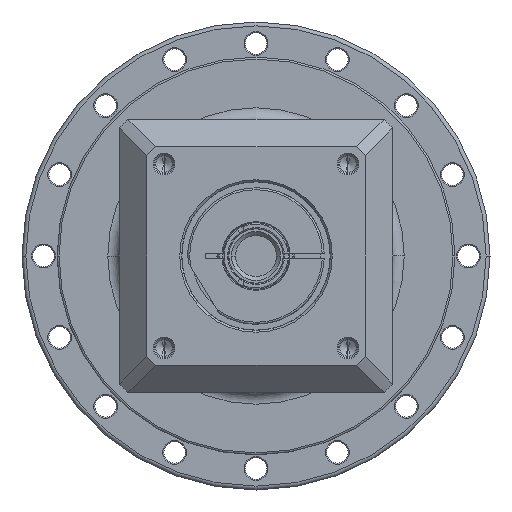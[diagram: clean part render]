
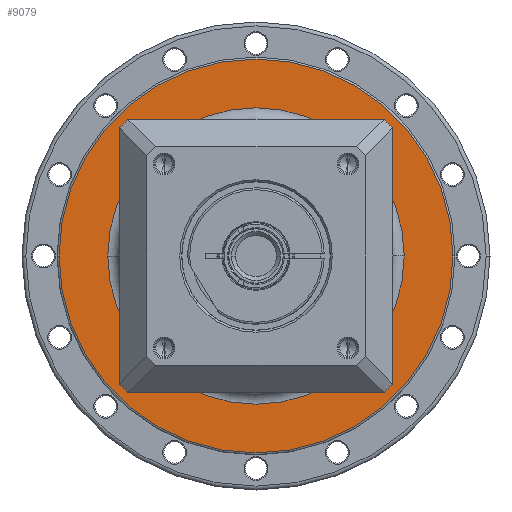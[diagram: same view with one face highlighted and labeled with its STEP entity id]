
A CAD part, left-side view. The second image highlights one B-rep face of the part: STEP entity #9079.
In plain terms, the highlighted planar face has unit normal (-1, 0, 0) as drawn and (1, 0, 0) by its records, which use the part's own axes.
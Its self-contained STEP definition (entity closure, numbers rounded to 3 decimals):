
#8558=CARTESIAN_POINT('',(-11.5,0.,0.));
#8559=DIRECTION('',(-1.,0.,0.));
#8560=DIRECTION('',(0.,-1.,0.));
#8561=AXIS2_PLACEMENT_3D('',#8558,#8559,#8560);
#8563=CARTESIAN_POINT('',(-11.5,0.,0.));
#8564=DIRECTION('',(-1.,0.,0.));
#8565=DIRECTION('',(0.,1.,0.));
#8566=AXIS2_PLACEMENT_3D('',#8563,#8564,#8565);
#8568=CARTESIAN_POINT('',(-11.5,0.,0.));
#8569=DIRECTION('',(-1.,0.,0.));
#8570=DIRECTION('',(0.,-1.,0.));
#8571=AXIS2_PLACEMENT_3D('',#8568,#8569,#8570);
#8573=CARTESIAN_POINT('',(-11.5,0.,0.));
#8574=DIRECTION('',(-1.,0.,0.));
#8575=DIRECTION('',(0.,1.,0.));
#8576=AXIS2_PLACEMENT_3D('',#8573,#8574,#8575);
#8642=CARTESIAN_POINT('',(-11.5,-50.5,0.));
#8643=CARTESIAN_POINT('',(-11.5,50.5,0.));
#8644=VERTEX_POINT('',#8642);
#8645=VERTEX_POINT('',#8643);
#8666=CARTESIAN_POINT('',(-11.5,-38.,0.));
#8667=CARTESIAN_POINT('',(-11.5,38.,0.));
#8668=VERTEX_POINT('',#8666);
#8669=VERTEX_POINT('',#8667);
#9064=CARTESIAN_POINT('',(-11.5,0.,0.));
#9065=DIRECTION('',(1.,0.,0.));
#9066=DIRECTION('',(0.,-1.,0.));
#9067=AXIS2_PLACEMENT_3D('',#9064,#9065,#9066);
#9068=PLANE('',#9067);
#9069=ORIENTED_EDGE('',*,*,#9005,.T.);
#9070=ORIENTED_EDGE('',*,*,#9020,.T.);
#9071=EDGE_LOOP('',(#9069,#9070));
#9072=FACE_OUTER_BOUND('',#9071,.F.);
#9074=ORIENTED_EDGE('',*,*,#9073,.F.);
#9076=ORIENTED_EDGE('',*,*,#9075,.F.);
#9077=EDGE_LOOP('',(#9074,#9076));
#9078=FACE_BOUND('',#9077,.F.);
#9079=ADVANCED_FACE('',(#9072,#9078),#9068,.T.);
#8562=CIRCLE('',#8561,38.);
#8567=CIRCLE('',#8566,38.);
#8572=CIRCLE('',#8571,50.5);
#8577=CIRCLE('',#8576,50.5);
#9005=EDGE_CURVE('',#8644,#8645,#8572,.T.);
#9020=EDGE_CURVE('',#8645,#8644,#8577,.T.);
#9073=EDGE_CURVE('',#8668,#8669,#8562,.T.);
#9075=EDGE_CURVE('',#8669,#8668,#8567,.T.);
